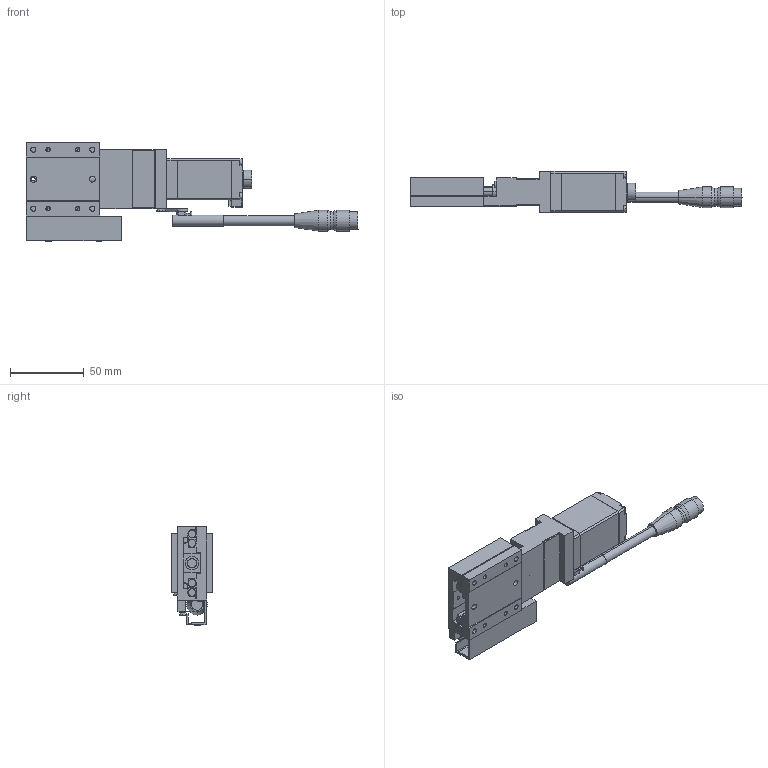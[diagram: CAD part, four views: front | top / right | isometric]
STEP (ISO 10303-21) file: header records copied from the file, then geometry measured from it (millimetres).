
FILE_DESCRIPTION(('STEP AP203'),'1');
FILE_NAME('C:/3D-Trans/3D_PG513T-R□-D+240116.step','2024-02-26T07:05:03',(' '),(' '),'Spatial InterOp 3D',' ',' ');
FILE_SCHEMA(('CONFIG_CONTROL_DESIGN'));
Length unit declared in the file: millimetre
Products named in the file (6): 1; 2; 3; 4; 5; 6
Bounding box: 225 x 28 x 67.4 mm (x, y, z)
Volume: 117582.7 mm3; surface area: 49207.3 mm2
Topology: 6 solids, 6 shells, 691 faces, 1741 edges, 1101 vertices
Faces by surface type: plane 380, cylinder 229, cone 82
Entity records: 20873 total; most frequent: DIRECTION 3685, CARTESIAN_POINT 3557, ORIENTED_EDGE 3442, EDGE_CURVE 1721, AXIS2_PLACEMENT_3D 1277, LINE 1131, VECTOR 1131, VERTEX_POINT 1101
